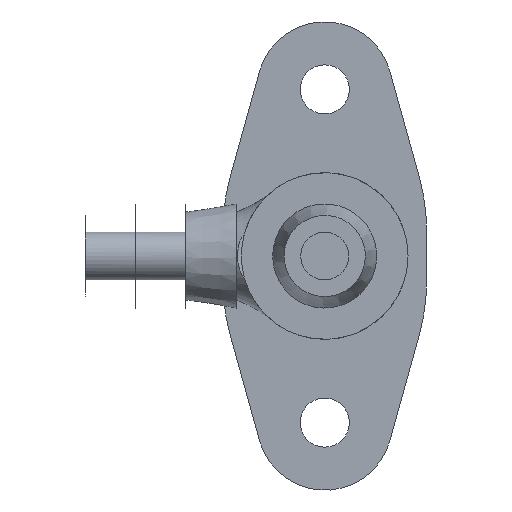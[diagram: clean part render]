
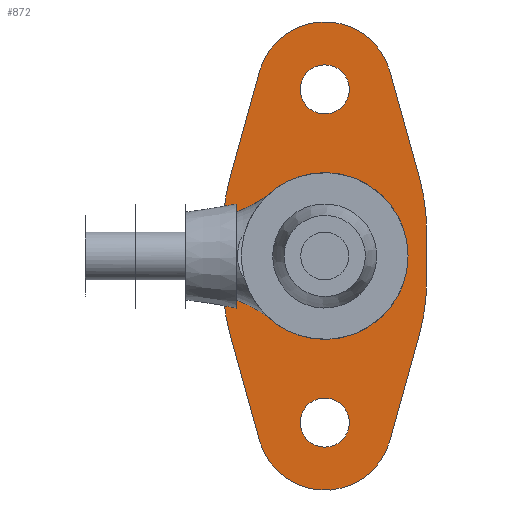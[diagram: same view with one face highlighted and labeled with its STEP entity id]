
A CAD part, left-side view. The second image highlights one B-rep face of the part: STEP entity #872.
In plain terms, the highlighted planar face has unit normal (-1, 0, 0).
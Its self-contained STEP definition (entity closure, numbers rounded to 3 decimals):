
#26=FACE_BOUND('',#161,.T.);
#27=FACE_BOUND('',#162,.T.);
#28=FACE_BOUND('',#163,.T.);
#42=PLANE('',#998);
#101=FACE_OUTER_BOUND('',#160,.T.);
#160=EDGE_LOOP('',(#711,#712,#713,#714,#715,#716,#717,#718,#719,#720,#721,
#722));
#161=EDGE_LOOP('',(#723,#724));
#162=EDGE_LOOP('',(#725,#726));
#163=EDGE_LOOP('',(#727,#728));
#202=LINE('',#1605,#249);
#203=LINE('',#1609,#250);
#204=LINE('',#1613,#251);
#205=LINE('',#1617,#252);
#206=LINE('',#1621,#253);
#207=LINE('',#1624,#254);
#249=VECTOR('',#1225,5.248);
#250=VECTOR('',#1228,2.275);
#251=VECTOR('',#1231,5.248);
#252=VECTOR('',#1234,5.248);
#253=VECTOR('',#1237,2.275);
#254=VECTOR('',#1240,5.248);
#283=CIRCLE('',#917,1.18);
#284=CIRCLE('',#918,1.18);
#287=CIRCLE('',#922,1.18);
#288=CIRCLE('',#923,1.18);
#330=CIRCLE('',#977,4.);
#331=CIRCLE('',#978,4.);
#337=CIRCLE('',#999,3.25);
#338=CIRCLE('',#1000,10.);
#339=CIRCLE('',#1001,10.);
#340=CIRCLE('',#1002,3.25);
#341=CIRCLE('',#1003,10.);
#342=CIRCLE('',#1004,10.);
#358=VERTEX_POINT('',#1341);
#359=VERTEX_POINT('',#1343);
#362=VERTEX_POINT('',#1351);
#363=VERTEX_POINT('',#1353);
#410=VERTEX_POINT('',#1528);
#411=VERTEX_POINT('',#1529);
#413=VERTEX_POINT('',#1601);
#414=VERTEX_POINT('',#1602);
#415=VERTEX_POINT('',#1604);
#416=VERTEX_POINT('',#1606);
#417=VERTEX_POINT('',#1608);
#418=VERTEX_POINT('',#1610);
#419=VERTEX_POINT('',#1612);
#420=VERTEX_POINT('',#1614);
#421=VERTEX_POINT('',#1616);
#422=VERTEX_POINT('',#1618);
#423=VERTEX_POINT('',#1620);
#424=VERTEX_POINT('',#1622);
#450=EDGE_CURVE('',#359,#358,#283,.T.);
#451=EDGE_CURVE('',#358,#359,#284,.T.);
#455=EDGE_CURVE('',#363,#362,#287,.T.);
#456=EDGE_CURVE('',#362,#363,#288,.T.);
#513=EDGE_CURVE('',#410,#411,#330,.T.);
#514=EDGE_CURVE('',#411,#410,#331,.T.);
#523=EDGE_CURVE('',#413,#414,#337,.T.);
#524=EDGE_CURVE('',#415,#413,#202,.T.);
#525=EDGE_CURVE('',#416,#415,#338,.T.);
#526=EDGE_CURVE('',#417,#416,#203,.T.);
#527=EDGE_CURVE('',#418,#417,#339,.T.);
#528=EDGE_CURVE('',#419,#418,#204,.T.);
#529=EDGE_CURVE('',#420,#419,#340,.T.);
#530=EDGE_CURVE('',#421,#420,#205,.T.);
#531=EDGE_CURVE('',#422,#421,#341,.T.);
#532=EDGE_CURVE('',#423,#422,#206,.T.);
#533=EDGE_CURVE('',#424,#423,#342,.T.);
#534=EDGE_CURVE('',#414,#424,#207,.T.);
#711=ORIENTED_EDGE('',*,*,#523,.F.);
#712=ORIENTED_EDGE('',*,*,#524,.F.);
#713=ORIENTED_EDGE('',*,*,#525,.F.);
#714=ORIENTED_EDGE('',*,*,#526,.F.);
#715=ORIENTED_EDGE('',*,*,#527,.F.);
#716=ORIENTED_EDGE('',*,*,#528,.F.);
#717=ORIENTED_EDGE('',*,*,#529,.F.);
#718=ORIENTED_EDGE('',*,*,#530,.F.);
#719=ORIENTED_EDGE('',*,*,#531,.F.);
#720=ORIENTED_EDGE('',*,*,#532,.F.);
#721=ORIENTED_EDGE('',*,*,#533,.F.);
#722=ORIENTED_EDGE('',*,*,#534,.F.);
#723=ORIENTED_EDGE('',*,*,#450,.T.);
#724=ORIENTED_EDGE('',*,*,#451,.T.);
#725=ORIENTED_EDGE('',*,*,#455,.T.);
#726=ORIENTED_EDGE('',*,*,#456,.T.);
#727=ORIENTED_EDGE('',*,*,#513,.T.);
#728=ORIENTED_EDGE('',*,*,#514,.T.);
#872=ADVANCED_FACE('',(#101,#26,#27,#28),#42,.F.);
#917=AXIS2_PLACEMENT_3D('',#1344,#1046,#1047);
#918=AXIS2_PLACEMENT_3D('',#1345,#1048,#1049);
#922=AXIS2_PLACEMENT_3D('',#1354,#1057,#1058);
#923=AXIS2_PLACEMENT_3D('',#1355,#1059,#1060);
#977=AXIS2_PLACEMENT_3D('',#1530,#1178,#1179);
#978=AXIS2_PLACEMENT_3D('',#1531,#1180,#1181);
#998=AXIS2_PLACEMENT_3D('',#1600,#1221,#1222);
#999=AXIS2_PLACEMENT_3D('',#1603,#1223,#1224);
#1000=AXIS2_PLACEMENT_3D('',#1607,#1226,#1227);
#1001=AXIS2_PLACEMENT_3D('',#1611,#1229,#1230);
#1002=AXIS2_PLACEMENT_3D('',#1615,#1232,#1233);
#1003=AXIS2_PLACEMENT_3D('',#1619,#1235,#1236);
#1004=AXIS2_PLACEMENT_3D('',#1623,#1238,#1239);
#1046=DIRECTION('center_axis',(1.,0.,0.));
#1047=DIRECTION('ref_axis',(0.,0.,
1.));
#1048=DIRECTION('center_axis',(1.,0.,0.));
#1049=DIRECTION('ref_axis',(0.,0.,
1.));
#1057=DIRECTION('center_axis',(1.,0.,0.));
#1058=DIRECTION('ref_axis',(0.,0.,
1.));
#1059=DIRECTION('center_axis',(1.,0.,0.));
#1060=DIRECTION('ref_axis',(0.,0.,
1.));
#1178=DIRECTION('center_axis',(1.,0.,0.));
#1179=DIRECTION('ref_axis',(0.,0.,
-1.));
#1180=DIRECTION('center_axis',(1.,0.,0.));
#1181=DIRECTION('ref_axis',(0.,0.,
-1.));
#1221=DIRECTION('center_axis',(1.,0.,0.));
#1222=DIRECTION('ref_axis',(0.,0.,-1.));
#1223=DIRECTION('center_axis',(1.,0.,0.));
#1224=DIRECTION('ref_axis',(0.,0.964,0.268));
#1225=DIRECTION('',(0.,-0.268,0.964));
#1226=DIRECTION('center_axis',(1.,0.,0.));
#1227=DIRECTION('ref_axis',(0.,1.,0.));
#1228=DIRECTION('',(0.,0.,1.));
#1229=DIRECTION('center_axis',(1.,0.,0.));
#1230=DIRECTION('ref_axis',(0.,0.964,-0.268));
#1231=DIRECTION('',(0.,0.268,0.964));
#1232=DIRECTION('center_axis',(1.,0.,0.));
#1233=DIRECTION('ref_axis',(0.,-0.964,-0.268));
#1234=DIRECTION('',(0.,0.268,-0.964));
#1235=DIRECTION('center_axis',(1.,0.,0.));
#1236=DIRECTION('ref_axis',(0.,-1.,0.));
#1237=DIRECTION('',(0.,0.,-1.));
#1238=DIRECTION('center_axis',(1.,0.,0.));
#1239=DIRECTION('ref_axis',(0.,-0.964,0.268));
#1240=DIRECTION('',(0.,-0.268,-0.964));
#1341=CARTESIAN_POINT('',(11.8,1.18,8.));
#1343=CARTESIAN_POINT('',(11.8,0.,6.82));
#1344=CARTESIAN_POINT('Origin',(11.8,0.,8.));
#1345=CARTESIAN_POINT('Origin',(11.8,0.,8.));
#1351=CARTESIAN_POINT('',(11.8,1.18,-8.));
#1353=CARTESIAN_POINT('',(11.8,0.,-9.18));
#1354=CARTESIAN_POINT('Origin',(11.8,0.,-8.));
#1355=CARTESIAN_POINT('Origin',(11.8,0.,-8.));
#1528=CARTESIAN_POINT('',(11.8,0.,4.));
#1529=CARTESIAN_POINT('',(11.8,-4.,0.));
#1530=CARTESIAN_POINT('Origin',(11.8,0.,0.));
#1531=CARTESIAN_POINT('Origin',(11.8,0.,0.));
#1600=CARTESIAN_POINT('Origin',(11.8,0.,-11.385));
#1601=CARTESIAN_POINT('',(11.8,3.132,8.869));
#1602=CARTESIAN_POINT('',(11.8,-3.132,8.869));
#1603=CARTESIAN_POINT('Origin',(11.8,0.,8.));
#1604=CARTESIAN_POINT('',(11.8,4.536,3.813));
#1605=CARTESIAN_POINT('',(11.8,4.536,3.813));
#1606=CARTESIAN_POINT('',(11.8,4.9,1.138));
#1607=CARTESIAN_POINT('Origin',(11.8,-5.1,1.138));
#1608=CARTESIAN_POINT('',(11.8,4.9,-1.138));
#1609=CARTESIAN_POINT('',(11.8,4.9,-1.138));
#1610=CARTESIAN_POINT('',(11.8,4.536,-3.813));
#1611=CARTESIAN_POINT('Origin',(11.8,-5.1,-1.138));
#1612=CARTESIAN_POINT('',(11.8,3.132,-8.869));
#1613=CARTESIAN_POINT('',(11.8,3.132,-8.869));
#1614=CARTESIAN_POINT('',(11.8,-3.132,-8.869));
#1615=CARTESIAN_POINT('Origin',(11.8,0.,-8.));
#1616=CARTESIAN_POINT('',(11.8,-4.536,-3.813));
#1617=CARTESIAN_POINT('',(11.8,-4.536,-3.813));
#1618=CARTESIAN_POINT('',(11.8,-4.9,-1.138));
#1619=CARTESIAN_POINT('Origin',(11.8,5.1,-1.138));
#1620=CARTESIAN_POINT('',(11.8,-4.9,1.138));
#1621=CARTESIAN_POINT('',(11.8,-4.9,1.138));
#1622=CARTESIAN_POINT('',(11.8,-4.536,3.813));
#1623=CARTESIAN_POINT('Origin',(11.8,5.1,1.138));
#1624=CARTESIAN_POINT('',(11.8,-3.132,8.869));
